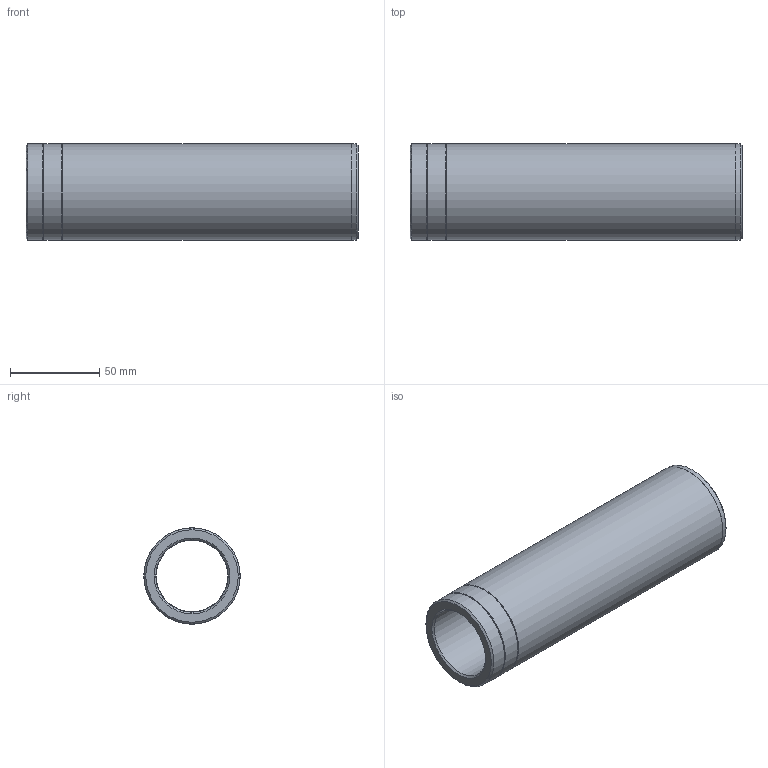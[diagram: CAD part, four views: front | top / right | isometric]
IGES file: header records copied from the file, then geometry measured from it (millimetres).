
Global section: file name: BG06.040176.ipt; native system: Autodesk Inventor 2021; preprocessor: unknown; author: SM; date: 20211221.174255; units: millimetre
Bounding box: 186 x 54 x 54 mm (x, y, z)
Volume: 188420.8 mm3; surface area: 57099.7 mm2
Topology: 1 solids, 1 shells, 20 faces, 36 edges, 24 vertices
Faces by surface type: plane 8, cylinder 6, revolution 4, cone 2
Full cylindrical faces by diameter (mm): 53 x2, 53.8 x2, 54 x2
